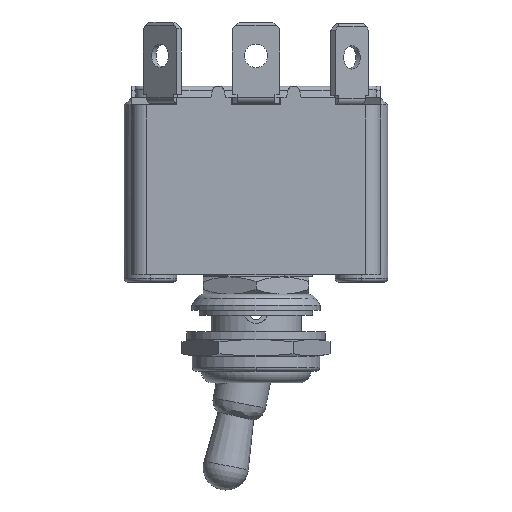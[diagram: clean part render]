
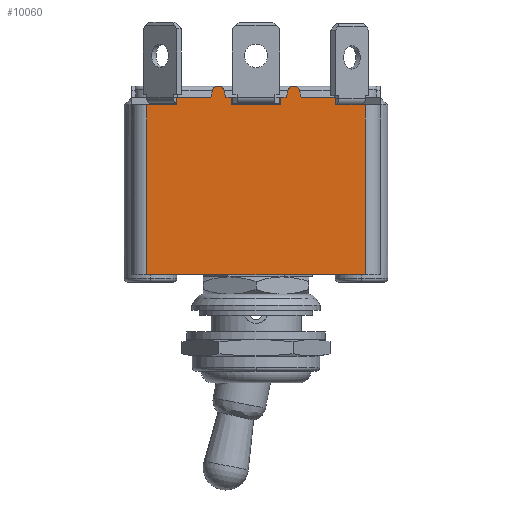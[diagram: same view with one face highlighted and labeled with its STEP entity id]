
A CAD part, front view. The second image highlights one B-rep face of the part: STEP entity #10060.
In plain terms, the highlighted planar face has unit normal (0, -1, 0).
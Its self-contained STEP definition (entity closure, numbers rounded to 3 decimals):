
#2276=DIRECTION('',(1.,0.,0.));
#2277=VECTOR('',#2276,29.);
#2278=CARTESIAN_POINT('',(-14.5,-10.75,-23.5));
#2279=LINE('',#2278,#2277);
#2316=DIRECTION('',(0.,0.,1.));
#2317=VECTOR('',#2316,22.5);
#2318=CARTESIAN_POINT('',(14.5,-10.75,-23.5));
#2319=LINE('',#2318,#2317);
#2854=DIRECTION('',(-1.,0.,0.));
#2855=VECTOR('',#2854,3.946);
#2856=CARTESIAN_POINT('',(-10.554,-10.75,-1.));
#2857=LINE('',#2856,#2855);
#2858=DIRECTION('',(0.,0.,1.));
#2859=VECTOR('',#2858,1.);
#2860=CARTESIAN_POINT('',(-10.554,-10.75,-1.));
#2861=LINE('',#2860,#2859);
#2862=DIRECTION('',(0.243,0.,0.97));
#2863=VECTOR('',#2862,0.922);
#2864=CARTESIAN_POINT('',(-6.,-10.75,0.));
#2865=LINE('',#2864,#2863);
#2866=CARTESIAN_POINT('',(-5.,-10.75,0.7));
#2867=DIRECTION('',(0.,1.,0.));
#2868=DIRECTION('',(-0.97,0.,0.243));
#2869=AXIS2_PLACEMENT_3D('',#2866,#2867,#2868);
#2871=DIRECTION('',(0.243,0.,-0.97));
#2872=VECTOR('',#2871,0.922);
#2873=CARTESIAN_POINT('',(-4.224,-10.75,0.894));
#2874=LINE('',#2873,#2872);
#2875=DIRECTION('',(0.,0.,1.));
#2876=VECTOR('',#2875,1.);
#2877=CARTESIAN_POINT('',(-3.25,-10.75,-1.));
#2878=LINE('',#2877,#2876);
#2879=DIRECTION('',(-1.,0.,0.));
#2880=VECTOR('',#2879,6.5);
#2881=CARTESIAN_POINT('',(3.25,-10.75,-1.));
#2882=LINE('',#2881,#2880);
#2883=DIRECTION('',(0.,0.,1.));
#2884=VECTOR('',#2883,1.);
#2885=CARTESIAN_POINT('',(3.25,-10.75,-1.));
#2886=LINE('',#2885,#2884);
#2887=DIRECTION('',(0.243,0.,0.97));
#2888=VECTOR('',#2887,0.922);
#2889=CARTESIAN_POINT('',(4.,-10.75,0.));
#2890=LINE('',#2889,#2888);
#2891=CARTESIAN_POINT('',(5.,-10.75,0.7));
#2892=DIRECTION('',(0.,1.,0.));
#2893=DIRECTION('',(-0.97,0.,0.243));
#2894=AXIS2_PLACEMENT_3D('',#2891,#2892,#2893);
#2896=DIRECTION('',(0.243,0.,-0.97));
#2897=VECTOR('',#2896,0.922);
#2898=CARTESIAN_POINT('',(5.776,-10.75,0.894));
#2899=LINE('',#2898,#2897);
#2900=DIRECTION('',(0.,0.,1.));
#2901=VECTOR('',#2900,1.);
#2902=CARTESIAN_POINT('',(10.554,-10.75,-1.));
#2903=LINE('',#2902,#2901);
#2904=DIRECTION('',(-1.,0.,0.));
#2905=VECTOR('',#2904,3.946);
#2906=CARTESIAN_POINT('',(14.5,-10.75,-1.));
#2907=LINE('',#2906,#2905);
#2908=DIRECTION('',(0.,0.,-1.));
#2909=VECTOR('',#2908,22.5);
#2910=CARTESIAN_POINT('',(-14.5,-10.75,-1.));
#2911=LINE('',#2910,#2909);
#3696=DIRECTION('',(-1.,0.,0.));
#3697=VECTOR('',#3696,4.554);
#3698=CARTESIAN_POINT('',(10.554,-10.75,0.));
#3699=LINE('',#3698,#3697);
#4208=DIRECTION('',(-1.,0.,0.));
#4209=VECTOR('',#4208,4.554);
#4210=CARTESIAN_POINT('',(-6.,-10.75,0.));
#4211=LINE('',#4210,#4209);
#4271=DIRECTION('',(-1.,0.,0.));
#4272=VECTOR('',#4271,0.75);
#4273=CARTESIAN_POINT('',(-3.25,-10.75,0.));
#4274=LINE('',#4273,#4272);
#4315=DIRECTION('',(-1.,0.,0.));
#4316=VECTOR('',#4315,0.75);
#4317=CARTESIAN_POINT('',(4.,-10.75,0.));
#4318=LINE('',#4317,#4316);
#5921=CARTESIAN_POINT('',(4.224,-10.75,0.894));
#5922=CARTESIAN_POINT('',(5.776,-10.75,0.894));
#5923=VERTEX_POINT('',#5921);
#5924=VERTEX_POINT('',#5922);
#5925=CARTESIAN_POINT('',(-5.776,-10.75,0.894));
#5926=CARTESIAN_POINT('',(-4.224,-10.75,0.894));
#5927=VERTEX_POINT('',#5925);
#5928=VERTEX_POINT('',#5926);
#5938=CARTESIAN_POINT('',(4.,-10.75,0.));
#5940=VERTEX_POINT('',#5938);
#5942=CARTESIAN_POINT('',(-4.,-10.75,0.));
#5944=VERTEX_POINT('',#5942);
#5975=CARTESIAN_POINT('',(6.,-10.75,0.));
#5976=VERTEX_POINT('',#5975);
#5977=CARTESIAN_POINT('',(-6.,-10.75,0.));
#5978=VERTEX_POINT('',#5977);
#6063=CARTESIAN_POINT('',(3.25,-10.75,0.));
#6065=VERTEX_POINT('',#6063);
#6069=CARTESIAN_POINT('',(-3.25,-10.75,0.));
#6070=VERTEX_POINT('',#6069);
#6075=CARTESIAN_POINT('',(10.554,-10.75,0.));
#6076=VERTEX_POINT('',#6075);
#6091=CARTESIAN_POINT('',(-10.554,-10.75,0.));
#6093=VERTEX_POINT('',#6091);
#6131=CARTESIAN_POINT('',(3.25,-10.75,-1.));
#6132=CARTESIAN_POINT('',(-3.25,-10.75,-1.));
#6133=VERTEX_POINT('',#6131);
#6134=VERTEX_POINT('',#6132);
#6135=CARTESIAN_POINT('',(10.554,-10.75,-1.));
#6136=VERTEX_POINT('',#6135);
#6137=CARTESIAN_POINT('',(-10.554,-10.75,-1.));
#6138=VERTEX_POINT('',#6137);
#6155=CARTESIAN_POINT('',(14.5,-10.75,-1.));
#6157=VERTEX_POINT('',#6155);
#6164=CARTESIAN_POINT('',(-14.5,-10.75,-1.));
#6166=VERTEX_POINT('',#6164);
#6240=CARTESIAN_POINT('',(14.5,-10.75,-23.5));
#6242=VERTEX_POINT('',#6240);
#6251=CARTESIAN_POINT('',(-14.5,-10.75,-23.5));
#6253=VERTEX_POINT('',#6251);
#10016=CARTESIAN_POINT('',(16.5,-10.75,0.));
#10017=DIRECTION('',(0.,-1.,0.));
#10018=DIRECTION('',(-1.,0.,0.));
#10019=AXIS2_PLACEMENT_3D('',#10016,#10017,#10018);
#10020=PLANE('',#10019);
#10021=ORIENTED_EDGE('',*,*,#9407,.F.);
#10022=ORIENTED_EDGE('',*,*,#9377,.F.);
#10024=ORIENTED_EDGE('',*,*,#10023,.F.);
#10026=ORIENTED_EDGE('',*,*,#10025,.F.);
#10028=ORIENTED_EDGE('',*,*,#10027,.T.);
#10030=ORIENTED_EDGE('',*,*,#10029,.F.);
#10032=ORIENTED_EDGE('',*,*,#10031,.T.);
#10034=ORIENTED_EDGE('',*,*,#10033,.T.);
#10036=ORIENTED_EDGE('',*,*,#10035,.T.);
#10038=ORIENTED_EDGE('',*,*,#10037,.F.);
#10040=ORIENTED_EDGE('',*,*,#10039,.F.);
#10042=ORIENTED_EDGE('',*,*,#10041,.F.);
#10044=ORIENTED_EDGE('',*,*,#10043,.T.);
#10046=ORIENTED_EDGE('',*,*,#10045,.F.);
#10048=ORIENTED_EDGE('',*,*,#10047,.T.);
#10050=ORIENTED_EDGE('',*,*,#10049,.T.);
#10052=ORIENTED_EDGE('',*,*,#10051,.T.);
#10054=ORIENTED_EDGE('',*,*,#10053,.F.);
#10056=ORIENTED_EDGE('',*,*,#10055,.F.);
#10057=ORIENTED_EDGE('',*,*,#9978,.F.);
#10058=EDGE_LOOP('',(#10021,#10022,#10024,#10026,#10028,#10030,#10032,#10034,
#10036,#10038,#10040,#10042,#10044,#10046,#10048,#10050,#10052,#10054,#10056,
#10057));
#10059=FACE_OUTER_BOUND('',#10058,.F.);
#10060=ADVANCED_FACE('',(#10059),#10020,.T.);
#2870=CIRCLE('',#2869,0.8);
#2895=CIRCLE('',#2894,0.8);
#9377=EDGE_CURVE('',#6253,#6242,#2279,.T.);
#9407=EDGE_CURVE('',#6242,#6157,#2319,.T.);
#9978=EDGE_CURVE('',#6157,#6136,#2907,.T.);
#10023=EDGE_CURVE('',#6166,#6253,#2911,.T.);
#10025=EDGE_CURVE('',#6138,#6166,#2857,.T.);
#10027=EDGE_CURVE('',#6138,#6093,#2861,.T.);
#10029=EDGE_CURVE('',#5978,#6093,#4211,.T.);
#10031=EDGE_CURVE('',#5978,#5927,#2865,.T.);
#10033=EDGE_CURVE('',#5927,#5928,#2870,.T.);
#10035=EDGE_CURVE('',#5928,#5944,#2874,.T.);
#10037=EDGE_CURVE('',#6070,#5944,#4274,.T.);
#10039=EDGE_CURVE('',#6134,#6070,#2878,.T.);
#10041=EDGE_CURVE('',#6133,#6134,#2882,.T.);
#10043=EDGE_CURVE('',#6133,#6065,#2886,.T.);
#10045=EDGE_CURVE('',#5940,#6065,#4318,.T.);
#10047=EDGE_CURVE('',#5940,#5923,#2890,.T.);
#10049=EDGE_CURVE('',#5923,#5924,#2895,.T.);
#10051=EDGE_CURVE('',#5924,#5976,#2899,.T.);
#10053=EDGE_CURVE('',#6076,#5976,#3699,.T.);
#10055=EDGE_CURVE('',#6136,#6076,#2903,.T.);
